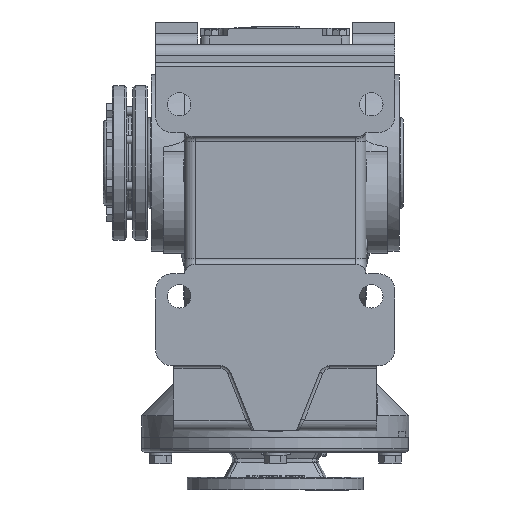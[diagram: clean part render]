
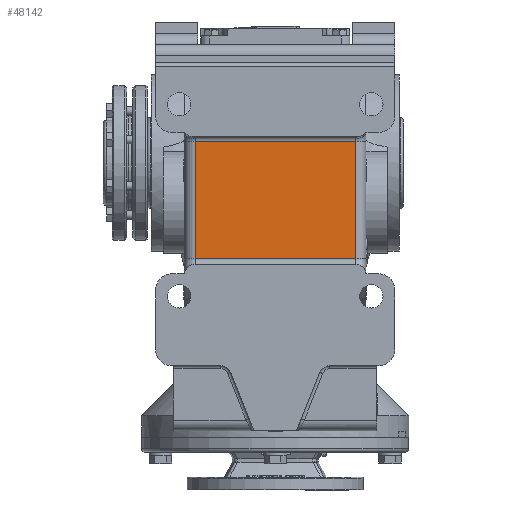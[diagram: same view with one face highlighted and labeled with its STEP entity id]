
A CAD part, front view. The second image highlights one B-rep face of the part: STEP entity #48142.
In plain terms, the highlighted planar face has unit normal (0, -1, 0).
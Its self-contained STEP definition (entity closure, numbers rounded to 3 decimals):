
#7908 = ORIENTED_EDGE ( 'NONE', *, *, #16608, .T. ) ;
#16602 = EDGE_CURVE ( 'NONE', #43815, #54938, #37327, .T. ) ;
#16608 = EDGE_CURVE ( 'NONE', #43806, #54939, #37338, .T. ) ;
#16609 = EDGE_CURVE ( 'NONE', #54939, #54938, #37344, .T. ) ;
#16610 = EDGE_CURVE ( 'NONE', #43815, #43806, #37349, .T. ) ;
#19154 = CARTESIAN_POINT ( 'NONE',  ( -112., -206., 20. ) ) ;
#19156 = PLANE ( 'NONE',  #30662 ) ;
#19271 = DIRECTION ( 'NONE',  ( 0., -1., 0. ) ) ;
#19273 = DIRECTION ( 'NONE',  ( 0., 0., -1. ) ) ;
#24543 = CARTESIAN_POINT ( 'NONE',  ( -75., -206., -90. ) ) ;
#24551 = CARTESIAN_POINT ( 'NONE',  ( -75., -206., 20. ) ) ;
#30662 = AXIS2_PLACEMENT_3D ( 'NONE', #19154, #19271, #19273 ) ;
#35925 = CARTESIAN_POINT ( 'NONE',  ( 75., -206., 20. ) ) ;
#35926 = CARTESIAN_POINT ( 'NONE',  ( 75., -206., -90. ) ) ;
#37327 = LINE ( 'NONE', #42528, #37334 ) ;
#37334 = VECTOR ( 'NONE', #42529, 1000. ) ;
#37338 = LINE ( 'NONE', #42584, #37348 ) ;
#37344 = LINE ( 'NONE', #42581, #37350 ) ;
#37348 = VECTOR ( 'NONE', #42569, 1000. ) ;
#37349 = LINE ( 'NONE', #42597, #37353 ) ;
#37350 = VECTOR ( 'NONE', #42593, 1000. ) ;
#37353 = VECTOR ( 'NONE', #42600, 1000. ) ;
#42528 = CARTESIAN_POINT ( 'NONE',  ( -112., -206., 20. ) ) ;
#42529 = DIRECTION ( 'NONE',  ( 1., 0., 0. ) ) ;
#42569 = DIRECTION ( 'NONE',  ( 1., 0., 0. ) ) ;
#42581 = CARTESIAN_POINT ( 'NONE',  ( 75., -206., 20. ) ) ;
#42584 = CARTESIAN_POINT ( 'NONE',  ( -112., -206., -90. ) ) ;
#42593 = DIRECTION ( 'NONE',  ( 0., 0., 1. ) ) ;
#42597 = CARTESIAN_POINT ( 'NONE',  ( -75., -206., -90. ) ) ;
#42600 = DIRECTION ( 'NONE',  ( 0., 0., -1. ) ) ;
#43806 = VERTEX_POINT ( 'NONE', #24543 ) ;
#43815 = VERTEX_POINT ( 'NONE', #24551 ) ;
#48142 = ADVANCED_FACE ( 'NONE', ( #49102 ), #19156, .T. ) ;
#48478 = ORIENTED_EDGE ( 'NONE', *, *, #16609, .T. ) ;
#48479 = ORIENTED_EDGE ( 'NONE', *, *, #16602, .F. ) ;
#48480 = ORIENTED_EDGE ( 'NONE', *, *, #16610, .T. ) ;
#49102 = FACE_OUTER_BOUND ( 'NONE', #50898, .T. ) ;
#50898 = EDGE_LOOP ( 'NONE', ( #7908, #48478, #48479, #48480 ) ) ;
#54938 = VERTEX_POINT ( 'NONE', #35925 ) ;
#54939 = VERTEX_POINT ( 'NONE', #35926 ) ;
